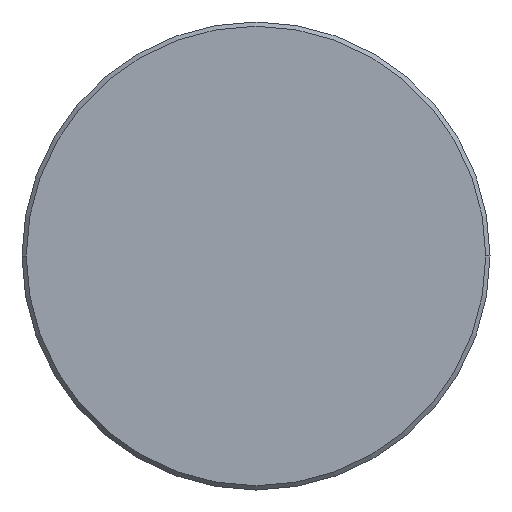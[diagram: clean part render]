
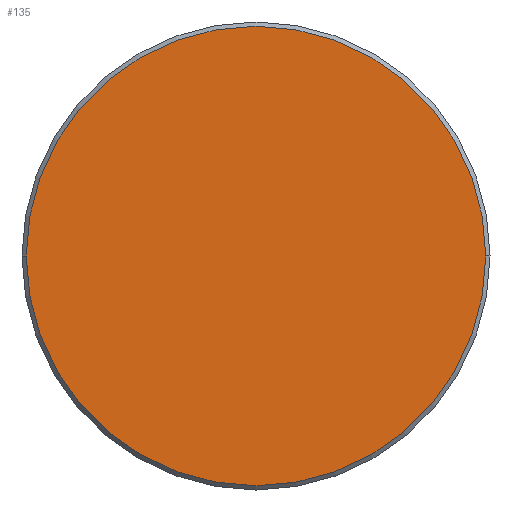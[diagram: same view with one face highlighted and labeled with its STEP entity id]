
A CAD part, left-side view. The second image highlights one B-rep face of the part: STEP entity #135.
In plain terms, the highlighted planar face has unit normal (-1, 0, 0).
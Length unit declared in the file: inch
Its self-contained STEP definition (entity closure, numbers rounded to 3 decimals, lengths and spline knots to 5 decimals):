
#20 = CARTESIAN_POINT ( 'NONE',  ( 0., 0.21475, 0. ) ) ;
#22 = DIRECTION ( 'NONE',  ( -1., 0., 0. ) ) ;
#54 = DIRECTION ( 'NONE',  ( 0., -1., 0. ) ) ;
#61 = CARTESIAN_POINT ( 'NONE',  ( 0., 0., 0. ) ) ;
#78 = CARTESIAN_POINT ( 'NONE',  ( 0., 0., 0. ) ) ;
#81 = PLANE ( 'NONE',  #117 ) ;
#82 = ORIENTED_EDGE ( 'NONE', *, *, #178, .T. ) ;
#92 = AXIS2_PLACEMENT_3D ( 'NONE', #78, #211, #54 ) ;
#100 = FACE_OUTER_BOUND ( 'NONE', #312, .T. ) ;
#111 = CARTESIAN_POINT ( 'NONE',  ( 0., -0.21475, 0. ) ) ;
#117 = AXIS2_PLACEMENT_3D ( 'NONE', #268, #333, #158 ) ;
#135 = ADVANCED_FACE ( 'NONE', ( #100 ), #81, .T. ) ;
#152 = VERTEX_POINT ( 'NONE', #111 ) ;
#158 = DIRECTION ( 'NONE',  ( 0., -1., 0. ) ) ;
#178 = EDGE_CURVE ( 'NONE', #152, #244, #350, .T. ) ;
#193 = DIRECTION ( 'NONE',  ( 0., -1., 0. ) ) ;
#211 = DIRECTION ( 'NONE',  ( -1., 0., 0. ) ) ;
#223 = CIRCLE ( 'NONE', #228, 0.21475 ) ;
#228 = AXIS2_PLACEMENT_3D ( 'NONE', #61, #22, #193 ) ;
#233 = EDGE_CURVE ( 'NONE', #244, #152, #223, .T. ) ;
#244 = VERTEX_POINT ( 'NONE', #20 ) ;
#268 = CARTESIAN_POINT ( 'NONE',  ( 0., 0., 0. ) ) ;
#275 = ORIENTED_EDGE ( 'NONE', *, *, #233, .T. ) ;
#312 = EDGE_LOOP ( 'NONE', ( #275, #82 ) ) ;
#333 = DIRECTION ( 'NONE',  ( -1., 0., 0. ) ) ;
#350 = CIRCLE ( 'NONE', #92, 0.21475 ) ;
